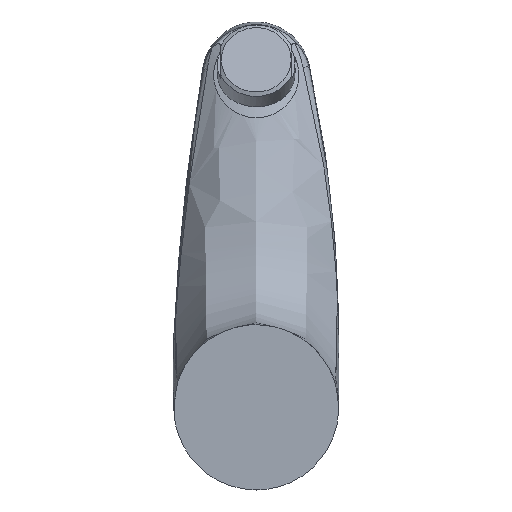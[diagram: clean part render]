
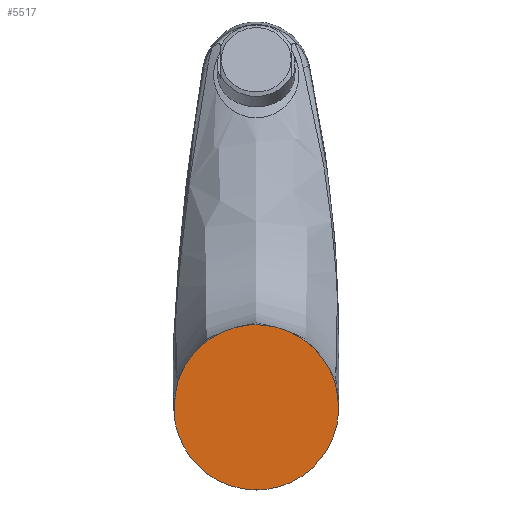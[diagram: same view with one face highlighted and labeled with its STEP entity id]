
A CAD part, front view. The second image highlights one B-rep face of the part: STEP entity #5517.
In plain terms, the highlighted planar face has unit normal (0, -1, 0).
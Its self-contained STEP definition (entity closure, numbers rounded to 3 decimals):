
#67 = ORIENTED_EDGE ( 'NONE', *, *, #471, .T. ) ;
#83 = ORIENTED_EDGE ( 'NONE', *, *, #4860, .F. ) ;
#136 = ORIENTED_EDGE ( 'NONE', *, *, #16589, .T. ) ;
#349 = EDGE_CURVE ( 'NONE', #4789, #5093, #16576, .T. ) ;
#368 = ORIENTED_EDGE ( 'NONE', *, *, #642, .F. ) ;
#471 = EDGE_CURVE ( 'NONE', #5093, #16657, #2028, .T. ) ;
#495 = ORIENTED_EDGE ( 'NONE', *, *, #3709, .F. ) ;
#528 = ORIENTED_EDGE ( 'NONE', *, *, #11250, .T. ) ;
#642 = EDGE_CURVE ( 'NONE', #1994, #1377, #16720, .T. ) ;
#1135 = CARTESIAN_POINT ( 'NONE',  ( 0.029, -0.01, -24.813 ) ) ;
#1377 = VERTEX_POINT ( 'NONE', #3298 ) ;
#1595 = CARTESIAN_POINT ( 'NONE',  ( -99.8, -0.01, -24.813 ) ) ;
#1598 = CARTESIAN_POINT ( 'NONE',  ( -25.379, -0.01, -1.708 ) ) ;
#1731 = CARTESIAN_POINT ( 'NONE',  ( -24.033, -0.01, -15.501 ) ) ;
#1994 = VERTEX_POINT ( 'NONE', #2354 ) ;
#2028 = B_SPLINE_CURVE_WITH_KNOTS ( 'NONE', 3,
 ( #5224, #7861, #7972, #5205, #7842, #7841 ),
 .UNSPECIFIED., .F., .F.,
 ( 4, 2, 4 ),
 ( 0., 0.005, 0.011 ),
 .UNSPECIFIED. ) ;
#2354 = CARTESIAN_POINT ( 'NONE',  ( 0.029, -0.01, -24.813 ) ) ;
#3292 = EDGE_LOOP ( 'NONE', ( #16663, #67, #83, #136, #368, #495, #528 ) ) ;
#3298 = CARTESIAN_POINT ( 'NONE',  ( 0.014, -0.01, -24.813 ) ) ;
#3323 = CARTESIAN_POINT ( 'NONE',  ( 25.406, -0.01, 2.861 ) ) ;
#3709 = EDGE_CURVE ( 'NONE', #17075, #1994, #10546, .T. ) ;
#4314 = DIRECTION ( 'NONE',  ( 0., 1., 0. ) ) ;
#4628 = CARTESIAN_POINT ( 'NONE',  ( -24.143, -0.01, 8.991 ) ) ;
#4686 = CARTESIAN_POINT ( 'NONE',  ( 24.206, -0.01, 8.804 ) ) ;
#4789 = VERTEX_POINT ( 'NONE', #14826 ) ;
#4860 = EDGE_CURVE ( 'NONE', #9083, #16657, #16953, .T. ) ;
#5093 = VERTEX_POINT ( 'NONE', #4628 ) ;
#5155 = AXIS2_PLACEMENT_3D ( 'NONE', #1595, #4314, #13663 ) ;
#5205 = CARTESIAN_POINT ( 'NONE',  ( -25.327, -0.01, 1.891 ) ) ;
#5224 = CARTESIAN_POINT ( 'NONE',  ( -24.143, -0.01, 8.991 ) ) ;
#5517 = ADVANCED_FACE ( 'NONE', ( #16607 ), #9721, .F. ) ;
#6211 = VECTOR ( 'NONE', #15369, 1000. ) ;
#6368 = LINE ( 'NONE', #14121, #6211 ) ;
#6959 = DIRECTION ( 'NONE',  ( -1., 0., 0. ) ) ;
#6977 = DIRECTION ( 'NONE',  ( 0., 0.996, 0.087 ) ) ;
#6980 = CARTESIAN_POINT ( 'NONE',  ( 0.014, -2.233, 0.589 ) ) ;
#7841 = CARTESIAN_POINT ( 'NONE',  ( -25.379, -0.01, -1.708 ) ) ;
#7842 = CARTESIAN_POINT ( 'NONE',  ( -25.413, -0.01, 0.094 ) ) ;
#7861 = CARTESIAN_POINT ( 'NONE',  ( -24.59, -0.01, 7.244 ) ) ;
#7884 = CARTESIAN_POINT ( 'NONE',  ( 25.497, -0.01, -0.166 ) ) ;
#7972 = CARTESIAN_POINT ( 'NONE',  ( -24.915, -0.01, 5.474 ) ) ;
#8301 = DIRECTION ( 'NONE',  ( 0., 0., -1. ) ) ;
#8304 = DIRECTION ( 'NONE',  ( 0., -1., 0. ) ) ;
#8320 = CARTESIAN_POINT ( 'NONE',  ( 0., -0.01, 0.784 ) ) ;
#9083 = VERTEX_POINT ( 'NONE', #13207 ) ;
#9245 = CARTESIAN_POINT ( 'NONE',  ( 14.524, -0.01, -24.805 ) ) ;
#9721 = PLANE ( 'NONE',  #5155 ) ;
#10092 = CARTESIAN_POINT ( 'NONE',  ( 25.497, -0.01, -0.166 ) ) ;
#10546 =( BOUNDED_CURVE ( )  B_SPLINE_CURVE ( 3, ( #7884, #15696, #9245, #1135 ),
 .UNSPECIFIED., .F., .F. ) 
 B_SPLINE_CURVE_WITH_KNOTS ( ( 4, 4 ),
 ( 4.749, 6.283 ),
 .UNSPECIFIED. ) 
 CURVE ( )  GEOMETRIC_REPRESENTATION_ITEM ( )  RATIONAL_B_SPLINE_CURVE ( ( 1., 0.814, 0.814, 1. ) ) 
 REPRESENTATION_ITEM ( '' )  );
#11244 = CARTESIAN_POINT ( 'NONE',  ( -25.379, -0.01, -1.708 ) ) ;
#11250 = EDGE_CURVE ( 'NONE', #17075, #4789, #11362, .T. ) ;
#11362 = B_SPLINE_CURVE_WITH_KNOTS ( 'NONE', 3,
 ( #10092, #3323, #12756, #4686 ),
 .UNSPECIFIED., .F., .F.,
 ( 4, 4 ),
 ( 0., 0.009 ),
 .UNSPECIFIED. ) ;
#12756 = CARTESIAN_POINT ( 'NONE',  ( 24.975, -0.01, 5.874 ) ) ;
#13207 = CARTESIAN_POINT ( 'NONE',  ( -0.001, -0.01, -24.813 ) ) ;
#13663 = DIRECTION ( 'NONE',  ( -1., 0., 0. ) ) ;
#14121 = CARTESIAN_POINT ( 'NONE',  ( -99.8, -0.01, -24.813 ) ) ;
#14826 = CARTESIAN_POINT ( 'NONE',  ( 24.206, -0.01, 8.804 ) ) ;
#15369 = DIRECTION ( 'NONE',  ( 1., 0., 0. ) ) ;
#15572 = AXIS2_PLACEMENT_3D ( 'NONE', #8320, #8304, #8301 ) ;
#15696 = CARTESIAN_POINT ( 'NONE',  ( 24.959, -0.01, -14.706 ) ) ;
#16064 = CARTESIAN_POINT ( 'NONE',  ( -13.807, -0.01, -24.812 ) ) ;
#16221 = CARTESIAN_POINT ( 'NONE',  ( -0.001, -0.01, -24.813 ) ) ;
#16299 = CARTESIAN_POINT ( 'NONE',  ( 25.497, -0.01, -0.166 ) ) ;
#16376 = AXIS2_PLACEMENT_3D ( 'NONE', #6980, #6977, #6959 ) ;
#16576 = CIRCLE ( 'NONE', #15572, 25.5 ) ;
#16589 = EDGE_CURVE ( 'NONE', #9083, #1377, #6368, .T. ) ;
#16607 = FACE_OUTER_BOUND ( 'NONE', #3292, .T. ) ;
#16657 = VERTEX_POINT ( 'NONE', #1598 ) ;
#16663 = ORIENTED_EDGE ( 'NONE', *, *, #349, .T. ) ;
#16720 = CIRCLE ( 'NONE', #16376, 25.5 ) ;
#16953 =( BOUNDED_CURVE ( )  B_SPLINE_CURVE ( 3, ( #16221, #16064, #1731, #11244 ),
 .UNSPECIFIED., .F., .T. ) 
 B_SPLINE_CURVE_WITH_KNOTS ( ( 4, 4 ),
 ( 0., 1.473 ),
 .UNSPECIFIED. ) 
 CURVE ( )  GEOMETRIC_REPRESENTATION_ITEM ( )  RATIONAL_B_SPLINE_CURVE ( ( 1., 0.827, 0.827, 1. ) ) 
 REPRESENTATION_ITEM ( '' )  );
#17075 = VERTEX_POINT ( 'NONE', #16299 ) ;
